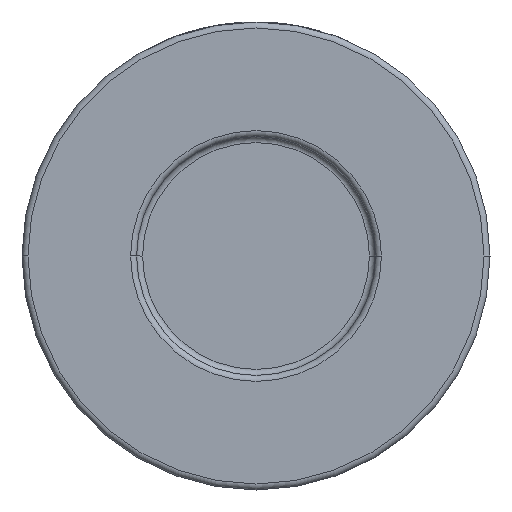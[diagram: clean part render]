
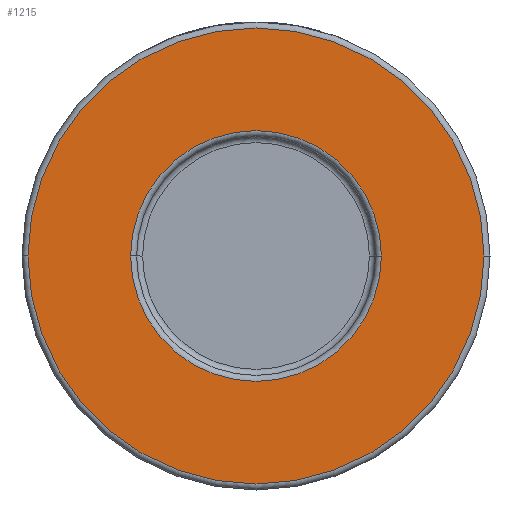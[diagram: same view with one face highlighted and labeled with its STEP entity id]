
A CAD part, front view. The second image highlights one B-rep face of the part: STEP entity #1215.
In plain terms, the highlighted planar face has unit normal (0, -1, 0).
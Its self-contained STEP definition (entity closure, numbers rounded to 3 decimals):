
#168 = EDGE_LOOP ( 'NONE', ( #1927, #1529 ) ) ;
#325 = DIRECTION ( 'NONE',  ( 0., -1., 0. ) ) ;
#454 = CIRCLE ( 'NONE', #1714, 20.9 ) ;
#507 = DIRECTION ( 'NONE',  ( 0., -1., 0. ) ) ;
#560 = EDGE_CURVE ( 'NONE', #1093, #3816, #454, .T. ) ;
#669 = AXIS2_PLACEMENT_3D ( 'NONE', #4449, #325, #1686 ) ;
#715 = CARTESIAN_POINT ( 'NONE',  ( 39., -19., 0. ) ) ;
#767 = CARTESIAN_POINT ( 'NONE',  ( -38., -19., 0. ) ) ;
#787 = DIRECTION ( 'NONE',  ( 1., 0., 0. ) ) ;
#914 = AXIS2_PLACEMENT_3D ( 'NONE', #715, #3581, #787 ) ;
#1047 = CIRCLE ( 'NONE', #3758, 38. ) ;
#1082 = VERTEX_POINT ( 'NONE', #767 ) ;
#1093 = VERTEX_POINT ( 'NONE', #4113 ) ;
#1118 = CIRCLE ( 'NONE', #669, 38. ) ;
#1215 = ADVANCED_FACE ( 'NONE', ( #1437, #4245 ), #2185, .T. ) ;
#1241 = ORIENTED_EDGE ( 'NONE', *, *, #3261, .T. ) ;
#1437 = FACE_BOUND ( 'NONE', #168, .T. ) ;
#1504 = CARTESIAN_POINT ( 'NONE',  ( 0., -19., 0. ) ) ;
#1529 = ORIENTED_EDGE ( 'NONE', *, *, #3684, .T. ) ;
#1565 = CARTESIAN_POINT ( 'NONE',  ( 0., -19., 0. ) ) ;
#1598 = VERTEX_POINT ( 'NONE', #3992 ) ;
#1686 = DIRECTION ( 'NONE',  ( 1., 0., 0. ) ) ;
#1714 = AXIS2_PLACEMENT_3D ( 'NONE', #1565, #2939, #1968 ) ;
#1870 = DIRECTION ( 'NONE',  ( 1., 0., 0. ) ) ;
#1927 = ORIENTED_EDGE ( 'NONE', *, *, #560, .T. ) ;
#1930 = DIRECTION ( 'NONE',  ( 1., 0., 0. ) ) ;
#1934 = AXIS2_PLACEMENT_3D ( 'NONE', #2708, #3031, #1930 ) ;
#1949 = EDGE_CURVE ( 'NONE', #1082, #1598, #1118, .T. ) ;
#1968 = DIRECTION ( 'NONE',  ( 1., 0., 0. ) ) ;
#2185 = PLANE ( 'NONE',  #914 ) ;
#2344 = ORIENTED_EDGE ( 'NONE', *, *, #1949, .T. ) ;
#2708 = CARTESIAN_POINT ( 'NONE',  ( 0., -19., 0. ) ) ;
#2939 = DIRECTION ( 'NONE',  ( 0., 1., 0. ) ) ;
#3031 = DIRECTION ( 'NONE',  ( 0., 1., 0. ) ) ;
#3261 = EDGE_CURVE ( 'NONE', #1598, #1082, #1047, .T. ) ;
#3328 = CIRCLE ( 'NONE', #1934, 20.9 ) ;
#3505 = CARTESIAN_POINT ( 'NONE',  ( -20.9, -19., 0. ) ) ;
#3568 = EDGE_LOOP ( 'NONE', ( #1241, #2344 ) ) ;
#3581 = DIRECTION ( 'NONE',  ( 0., -1., 0. ) ) ;
#3684 = EDGE_CURVE ( 'NONE', #3816, #1093, #3328, .T. ) ;
#3758 = AXIS2_PLACEMENT_3D ( 'NONE', #1504, #507, #1870 ) ;
#3816 = VERTEX_POINT ( 'NONE', #3505 ) ;
#3992 = CARTESIAN_POINT ( 'NONE',  ( 38., -19., 0. ) ) ;
#4113 = CARTESIAN_POINT ( 'NONE',  ( 20.9, -19., 0. ) ) ;
#4245 = FACE_OUTER_BOUND ( 'NONE', #3568, .T. ) ;
#4449 = CARTESIAN_POINT ( 'NONE',  ( 0., -19., 0. ) ) ;
